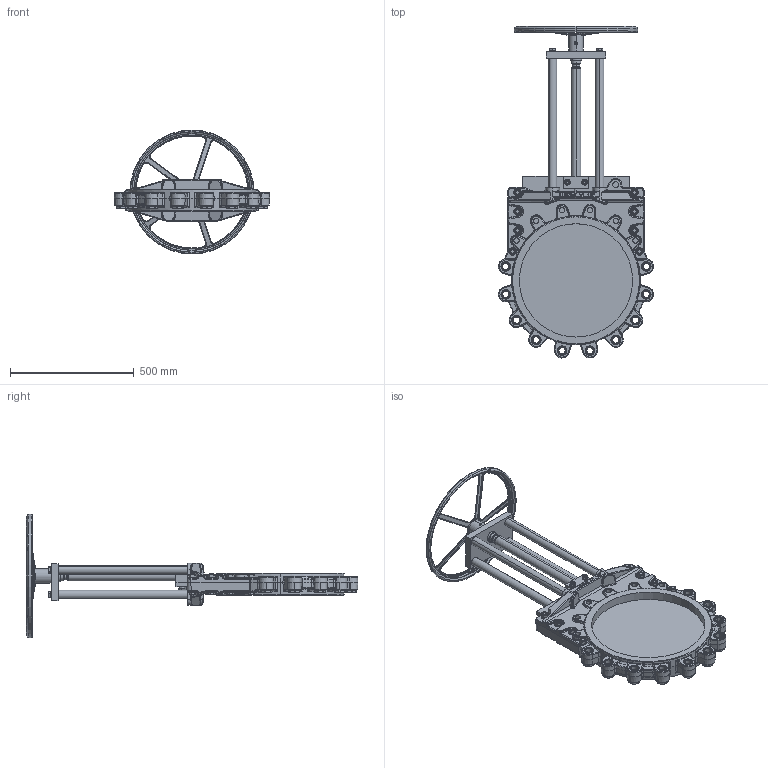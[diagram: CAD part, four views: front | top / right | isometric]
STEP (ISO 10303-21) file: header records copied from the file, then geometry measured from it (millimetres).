
FILE_DESCRIPTION (( 'STEP AP214' ), '1' );
FILE_NAME ('VLA DN 0450.STEP', '2022-09-20T06:59:27', ( '' ), ( '' ), 'SwSTEP 2.0', 'SolidWorks 2021', '' );
FILE_SCHEMA (( 'AUTOMOTIVE_DESIGN' ));
Length unit declared in the file: millimetre
Products named in the file (1): VLA DN 0450
Bounding box: 626.7 x 1339.27 x 500 mm (x, y, z)
Volume: 20962858.1 mm3; surface area: 2057649.3 mm2
Topology: 1 solids, 40 shells, 3266 faces, 7666 edges, 4490 vertices
Faces by surface type: plane 934, cylinder 823, bspline 671, cone 545, torus 267, sphere 26
Entity records: 157899 total; most frequent: CARTESIAN_POINT 52735, ORIENTED_EDGE 15086, DIRECTION 13694, EDGE_CURVE 7543, AXIS2_PLACEMENT_3D 5633, VERTEX_POINT 4490, EDGE_LOOP 3501, UNCERTAINTY_MEASURE_WITH_UNIT 3267
